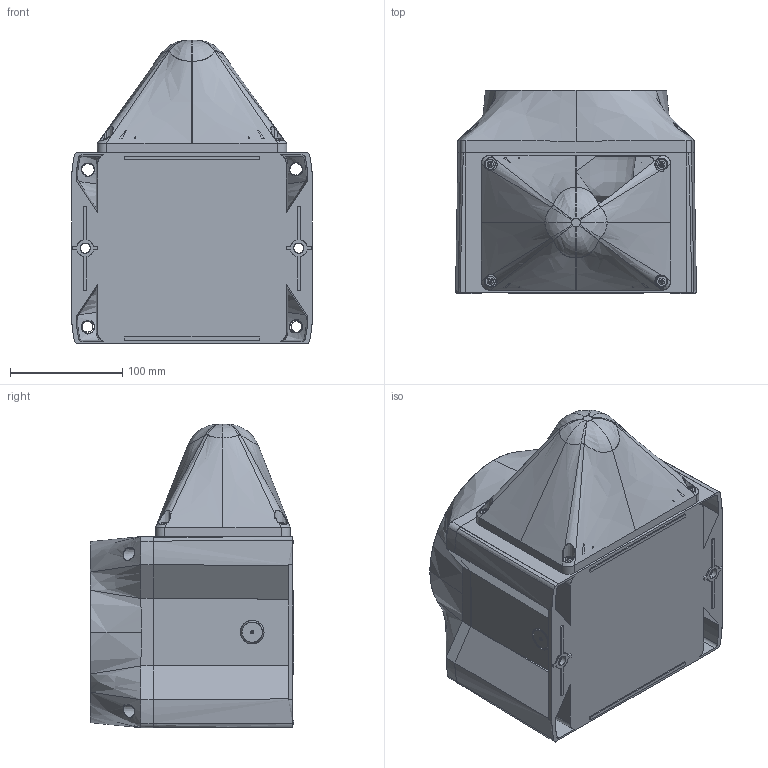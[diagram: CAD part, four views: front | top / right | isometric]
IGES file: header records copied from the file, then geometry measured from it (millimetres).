
Start section: SolidWorks IGES file using analytic representation for surfaces
Global section: file name: L:\3D Volumenmodelle\PATROL_PYRA\PA(X)20\PAX20-30306-100.IGS; native system: SolidWorks 2011; preprocessor: SolidWorks 2011; author: MMark; date: 120110.113134; units: millimetre
Bounding box: 214.34 x 181.2 x 270.05 mm (x, y, z)
Surface area: 327654.5 mm2 (no closed solid volume)
Topology: 0 solids, 0 shells, 377 faces, 5364 edges, 5361 vertices
Faces by surface type: bspline 267, revolution 110
